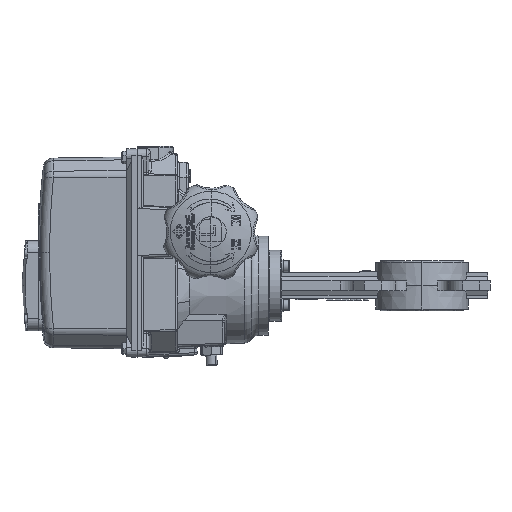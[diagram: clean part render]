
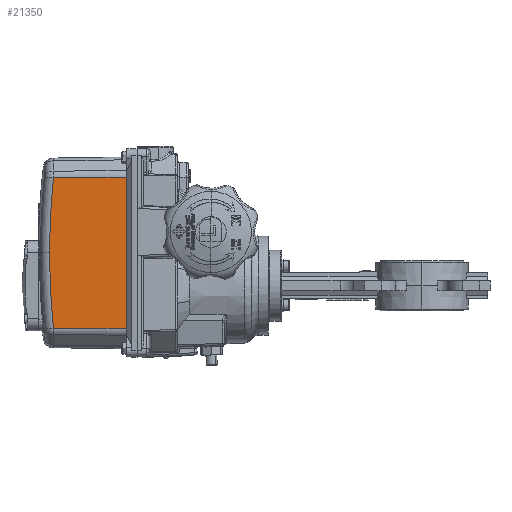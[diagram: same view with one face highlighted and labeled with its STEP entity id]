
A CAD part, left-side view. The second image highlights one B-rep face of the part: STEP entity #21350.
In plain terms, the highlighted planar face has unit normal (-1, 0.013, 0).
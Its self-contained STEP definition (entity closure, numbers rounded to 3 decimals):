
#3478 = DIRECTION ( 'NONE',  ( -1., 0.013, 0. ) ) ;
#3589 = EDGE_CURVE ( 'NONE', #4126, #117538, #20883, .T. ) ;
#4126 = VERTEX_POINT ( 'NONE', #64791 ) ;
#4687 = CARTESIAN_POINT ( 'NONE',  ( -57.279, 269.7, 98.858 ) ) ;
#6479 = CARTESIAN_POINT ( 'NONE',  ( -57.412, 259.734, -41.573 ) ) ;
#8084 = ORIENTED_EDGE ( 'NONE', *, *, #21784, .T. ) ;
#12572 = CIRCLE ( 'NONE', #65306, 688.92 ) ;
#14907 = LINE ( 'NONE', #35019, #37222 ) ;
#15877 = CARTESIAN_POINT ( 'NONE',  ( -65.589, -349.385, 29.913 ) ) ;
#20883 = LINE ( 'NONE', #41443, #119128 ) ;
#21350 = ADVANCED_FACE ( 'NONE', ( #45225 ), #53822, .T. ) ;
#21784 = EDGE_CURVE ( 'NONE', #69246, #99959, #12572, .T. ) ;
#26848 = EDGE_LOOP ( 'NONE', ( #115803, #75282, #110953, #8084, #84059 ) ) ;
#35019 = CARTESIAN_POINT ( 'NONE',  ( -57.413, 259.72, -39.088 ) ) ;
#35554 = EDGE_CURVE ( 'NONE', #47549, #4126, #14907, .T. ) ;
#37222 = VECTOR ( 'NONE', #102899, 1000. ) ;
#40458 = CARTESIAN_POINT ( 'NONE',  ( -56.388, 336.051, -38.663 ) ) ;
#41443 = CARTESIAN_POINT ( 'NONE',  ( -57.279, 269.7, -41.573 ) ) ;
#41840 = DIRECTION ( 'NONE',  ( 0., 0., 1. ) ) ;
#44704 = DIRECTION ( 'NONE',  ( -1., 0.013, 0. ) ) ;
#45225 = FACE_OUTER_BOUND ( 'NONE', #26848, .T. ) ;
#45499 = EDGE_CURVE ( 'NONE', #99959, #47549, #89162, .T. ) ;
#46181 = DIRECTION ( 'NONE',  ( 0.013, 1., -0.006 ) ) ;
#46387 = CARTESIAN_POINT ( 'NONE',  ( -56.388, 336.051, 98.489 ) ) ;
#46615 = CARTESIAN_POINT ( 'NONE',  ( -56.342, 339.473, 29.913 ) ) ;
#47549 = VERTEX_POINT ( 'NONE', #40458 ) ;
#51111 = EDGE_CURVE ( 'NONE', #117538, #69246, #83852, .T. ) ;
#52452 = DIRECTION ( 'NONE',  ( -1., 0.013, 0. ) ) ;
#53822 = PLANE ( 'NONE',  #121184 ) ;
#55304 = CARTESIAN_POINT ( 'NONE',  ( -57.411, 259.826, 98.912 ) ) ;
#64791 = CARTESIAN_POINT ( 'NONE',  ( -57.279, 269.7, -39.032 ) ) ;
#65306 = AXIS2_PLACEMENT_3D ( 'NONE', #15877, #52452, #118688 ) ;
#69246 = VERTEX_POINT ( 'NONE', #46387 ) ;
#75282 = ORIENTED_EDGE ( 'NONE', *, *, #3589, .T. ) ;
#80846 = VECTOR ( 'NONE', #46181, 1000. ) ;
#83852 = LINE ( 'NONE', #55304, #80846 ) ;
#84059 = ORIENTED_EDGE ( 'NONE', *, *, #45499, .T. ) ;
#89162 = CIRCLE ( 'NONE', #112170, 688.92 ) ;
#99959 = VERTEX_POINT ( 'NONE', #46615 ) ;
#102899 = DIRECTION ( 'NONE',  ( -0.013, -1., -0.006 ) ) ;
#110953 = ORIENTED_EDGE ( 'NONE', *, *, #51111, .T. ) ;
#111377 = DIRECTION ( 'NONE',  ( 0.013, 1., 0. ) ) ;
#112170 = AXIS2_PLACEMENT_3D ( 'NONE', #117489, #3478, #117086 ) ;
#115803 = ORIENTED_EDGE ( 'NONE', *, *, #35554, .T. ) ;
#117086 = DIRECTION ( 'NONE',  ( 0.013, 1., 0. ) ) ;
#117489 = CARTESIAN_POINT ( 'NONE',  ( -65.589, -349.385, 29.913 ) ) ;
#117538 = VERTEX_POINT ( 'NONE', #4687 ) ;
#118688 = DIRECTION ( 'NONE',  ( 0.013, 1., 0. ) ) ;
#119128 = VECTOR ( 'NONE', #41840, 1000. ) ;
#121184 = AXIS2_PLACEMENT_3D ( 'NONE', #6479, #44704, #111377 ) ;
